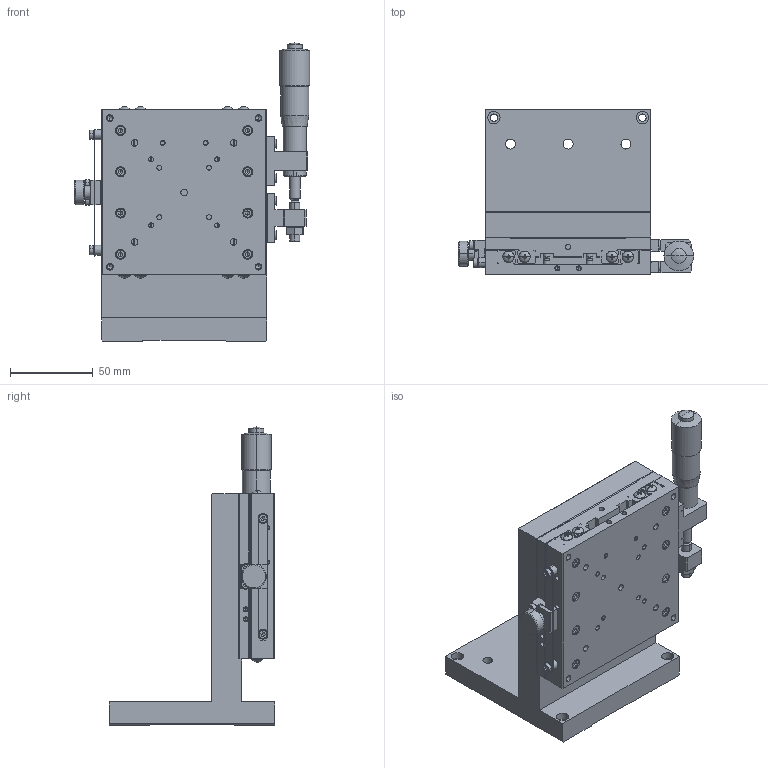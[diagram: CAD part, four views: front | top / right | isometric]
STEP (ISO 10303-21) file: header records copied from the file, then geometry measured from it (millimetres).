
FILE_DESCRIPTION (( 'STEP AP214' ), '1' );
FILE_NAME ('ZM10A-X1.STEP', '2007-08-07T02:22:37', ( ' ' ), ( ' ' ), 'SwSTEP 2.0', 'SolidWorks 2006052', '' );
FILE_SCHEMA (( 'AUTOMOTIVE_DESIGN' ));
Products named in the file (4): XM10A-S1Z(PL); 001130-1011(3D); ZM10A-X1; 001130-1022(3D)
Assembly tree (3 placements, depth 3):
  ZM10A-X1
    XM10A-S1Z(PL)
      001130-1022(3D)
      001130-1011(3D)
Bounding box: 142.5 x 100 x 180.5 mm (x, y, z)
Volume: 546901 mm3; surface area: 140216.4 mm2
Topology: 2 solids, 65 shells, 2132 faces, 4912 edges, 2919 vertices
Faces by surface type: plane 989, cylinder 647, cone 460, sphere 20, torus 16
Entity records: 59505 total; most frequent: DIRECTION 11047, CARTESIAN_POINT 10266, ORIENTED_EDGE 9564, EDGE_CURVE 4782, AXIS2_PLACEMENT_3D 4211, VERTEX_POINT 2919, VECTOR 2625, LINE 2625
